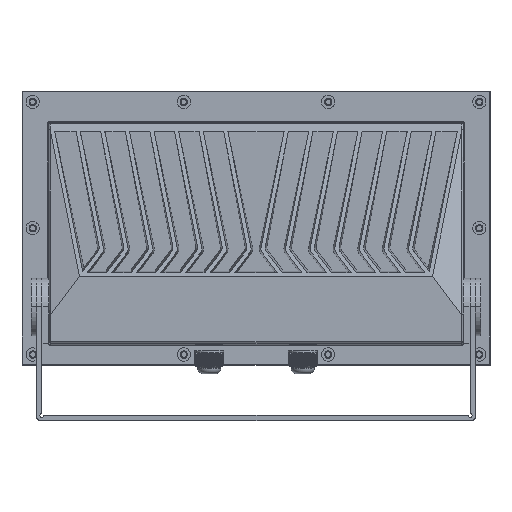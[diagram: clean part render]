
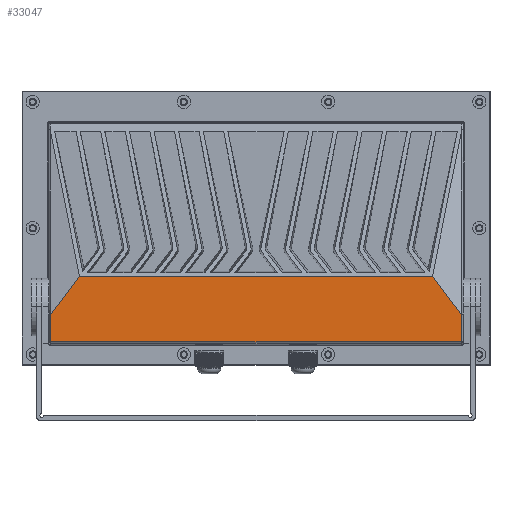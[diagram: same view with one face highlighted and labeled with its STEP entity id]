
A CAD part, top view. The second image highlights one B-rep face of the part: STEP entity #33047.
In plain terms, the highlighted planar face has unit normal (0, 0, 1).
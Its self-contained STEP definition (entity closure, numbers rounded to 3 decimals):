
#20469=DIRECTION('',(1.,0.,0.));
#20470=VECTOR('',#20469,307.092);
#20471=CARTESIAN_POINT('',(-153.546,-85.046,62.));
#20472=LINE('',#20471,#20470);
#20488=DIRECTION('',(0.,-1.,0.));
#20489=VECTOR('',#20488,20.474);
#20490=CARTESIAN_POINT('',(-153.546,-64.572,62.));
#20491=LINE('',#20490,#20489);
#20511=DIRECTION('',(0.602,0.798,0.));
#20512=VECTOR('',#20511,35.785);
#20513=CARTESIAN_POINT('',(-153.546,-64.572,62.));
#20514=LINE('',#20513,#20512);
#20515=DIRECTION('',(1.,0.,0.));
#20516=VECTOR('',#20515,264.);
#20517=CARTESIAN_POINT('',(-132.,-36.,62.));
#20518=LINE('',#20517,#20516);
#21286=DIRECTION('',(0.,1.,0.));
#21287=VECTOR('',#21286,20.474);
#21288=CARTESIAN_POINT('',(153.546,-85.046,62.));
#21289=LINE('',#21288,#21287);
#21313=DIRECTION('',(-0.602,0.798,0.));
#21314=VECTOR('',#21313,35.785);
#21315=CARTESIAN_POINT('',(153.546,-64.572,62.));
#21316=LINE('',#21315,#21314);
#30371=CARTESIAN_POINT('',(153.546,-85.046,62.));
#30372=VERTEX_POINT('',#30371);
#30373=CARTESIAN_POINT('',(-153.546,-85.046,62.));
#30374=VERTEX_POINT('',#30373);
#30375=CARTESIAN_POINT('',(-153.546,-64.572,62.));
#30376=VERTEX_POINT('',#30375);
#30378=CARTESIAN_POINT('',(-132.,-36.,62.));
#30379=VERTEX_POINT('',#30378);
#30380=CARTESIAN_POINT('',(132.,-36.,62.));
#30381=VERTEX_POINT('',#30380);
#30382=CARTESIAN_POINT('',(153.546,-64.572,62.));
#30383=VERTEX_POINT('',#30382);
#33030=CARTESIAN_POINT('',(0.,0.,62.));
#33031=DIRECTION('',(0.,0.,1.));
#33032=DIRECTION('',(1.,0.,0.));
#33033=AXIS2_PLACEMENT_3D('',#33030,#33031,#33032);
#33034=PLANE('',#33033);
#33035=ORIENTED_EDGE('',*,*,#32997,.F.);
#33036=ORIENTED_EDGE('',*,*,#33019,.F.);
#33038=ORIENTED_EDGE('',*,*,#33037,.T.);
#33040=ORIENTED_EDGE('',*,*,#33039,.T.);
#33042=ORIENTED_EDGE('',*,*,#33041,.F.);
#33044=ORIENTED_EDGE('',*,*,#33043,.F.);
#33045=EDGE_LOOP('',(#33035,#33036,#33038,#33040,#33042,#33044));
#33046=FACE_OUTER_BOUND('',#33045,.F.);
#33047=ADVANCED_FACE('',(#33046),#33034,.T.);
#32997=EDGE_CURVE('',#30374,#30372,#20472,.T.);
#33019=EDGE_CURVE('',#30376,#30374,#20491,.T.);
#33037=EDGE_CURVE('',#30376,#30379,#20514,.T.);
#33039=EDGE_CURVE('',#30379,#30381,#20518,.T.);
#33041=EDGE_CURVE('',#30383,#30381,#21316,.T.);
#33043=EDGE_CURVE('',#30372,#30383,#21289,.T.);
